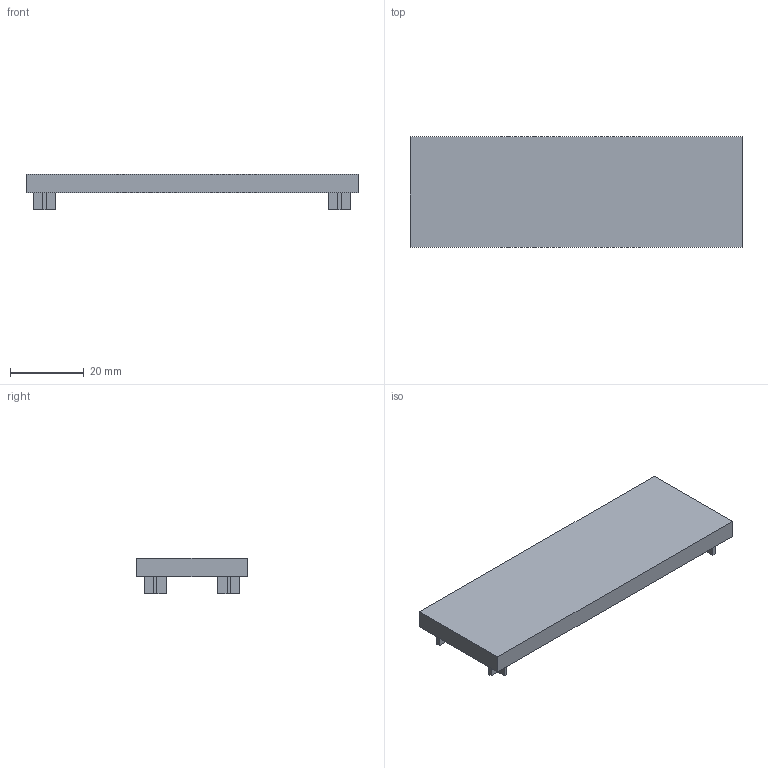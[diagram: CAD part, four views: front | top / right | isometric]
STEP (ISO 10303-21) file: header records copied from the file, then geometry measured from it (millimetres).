
FILE_DESCRIPTION(/* description */ ('Unknown'),/* implementation_level */ '2;1');
FILE_NAME(/* name */ 'CAP3090',/* time_stamp */ '2026-08-31T14:15:52+08:00',/* author */ ('Unknown'),/* organization */ ('Unknown'),/* preprocessor_version */ 'ST-DEVELOPER v16.7',/* originating_system */ 'DEX',/* authorisation */ $);
FILE_SCHEMA (('AUTOMOTIVE_DESIGN {1 0 10303 214 3 1 1}'));
Length unit declared in the file: millimetre
Products named in the file (1): CAP
Bounding box: 90 x 30 x 9.5 mm (x, y, z)
Volume: 4018 mm3; surface area: 8344 mm2
Topology: 1 solids, 1 shells, 63 faces, 168 edges, 112 vertices
Faces by surface type: plane 63
Entity records: 1952 total; most frequent: CARTESIAN_POINT 344, ORIENTED_EDGE 336, DIRECTION 296, EDGE_CURVE 168, LINE 168, VECTOR 168, VERTEX_POINT 112, EDGE_LOOP 68
